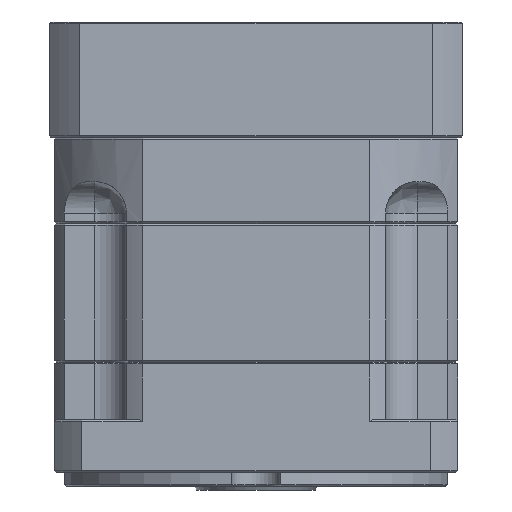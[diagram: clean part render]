
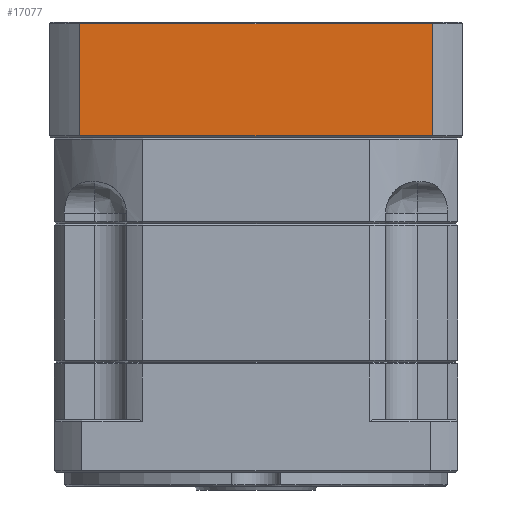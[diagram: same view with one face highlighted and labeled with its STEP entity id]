
A CAD part, front view. The second image highlights one B-rep face of the part: STEP entity #17077.
In plain terms, the highlighted planar face has unit normal (0, -1, 0).
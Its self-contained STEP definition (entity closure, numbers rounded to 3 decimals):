
#5078 = FACE_OUTER_BOUND ( 'NONE', #84333, .T. ) ;
#12532 = EDGE_CURVE ( 'NONE', #76720, #50619, #70530, .T. ) ;
#16897 = ORIENTED_EDGE ( 'NONE', *, *, #111035, .T. ) ;
#17077 = ADVANCED_FACE ( 'NONE', ( #5078 ), #99193, .F. ) ;
#19075 = CARTESIAN_POINT ( 'NONE',  ( 120.925, 19.563, -28.146 ) ) ;
#28096 = DIRECTION ( 'NONE',  ( -1., 0., 0. ) ) ;
#30961 = LINE ( 'NONE', #47358, #75723 ) ;
#31245 = CARTESIAN_POINT ( 'NONE',  ( 120.925, 19.563, -60.646 ) ) ;
#40245 = DIRECTION ( 'NONE',  ( 1., 0., 0. ) ) ;
#40355 = VECTOR ( 'NONE', #40245, 1000. ) ;
#41405 = VERTEX_POINT ( 'NONE', #72030 ) ;
#43146 = EDGE_CURVE ( 'NONE', #50619, #41405, #30961, .T. ) ;
#47358 = CARTESIAN_POINT ( 'NONE',  ( 120.925, 19.563, -28.646 ) ) ;
#50619 = VERTEX_POINT ( 'NONE', #58815 ) ;
#55283 = CARTESIAN_POINT ( 'NONE',  ( 120.925, 19.563, -28.146 ) ) ;
#56021 = CARTESIAN_POINT ( 'NONE',  ( 20.421, 19.563, -60.646 ) ) ;
#58815 = CARTESIAN_POINT ( 'NONE',  ( 20.421, 19.563, -28.646 ) ) ;
#61032 = LINE ( 'NONE', #55283, #105734 ) ;
#62635 = ORIENTED_EDGE ( 'NONE', *, *, #12532, .F. ) ;
#62722 = EDGE_CURVE ( 'NONE', #41405, #84319, #61032, .T. ) ;
#64167 = LINE ( 'NONE', #31245, #40355 ) ;
#68521 = ORIENTED_EDGE ( 'NONE', *, *, #62722, .F. ) ;
#69261 = CARTESIAN_POINT ( 'NONE',  ( 120.925, 19.563, -60.646 ) ) ;
#70530 = LINE ( 'NONE', #94260, #115204 ) ;
#72030 = CARTESIAN_POINT ( 'NONE',  ( 120.925, 19.563, -28.646 ) ) ;
#75723 = VECTOR ( 'NONE', #100844, 1000. ) ;
#76720 = VERTEX_POINT ( 'NONE', #56021 ) ;
#81625 = DIRECTION ( 'NONE',  ( 0., 1., 0. ) ) ;
#82732 = AXIS2_PLACEMENT_3D ( 'NONE', #19075, #81625, #28096 ) ;
#84319 = VERTEX_POINT ( 'NONE', #69261 ) ;
#84333 = EDGE_LOOP ( 'NONE', ( #104017, #62635, #16897, #68521 ) ) ;
#85721 = DIRECTION ( 'NONE',  ( 0., 0., 1. ) ) ;
#94260 = CARTESIAN_POINT ( 'NONE',  ( 20.421, 19.563, -28.146 ) ) ;
#99193 = PLANE ( 'NONE',  #82732 ) ;
#99418 = DIRECTION ( 'NONE',  ( 0., 0., -1. ) ) ;
#100844 = DIRECTION ( 'NONE',  ( 1., 0., 0. ) ) ;
#104017 = ORIENTED_EDGE ( 'NONE', *, *, #43146, .F. ) ;
#105734 = VECTOR ( 'NONE', #99418, 1000. ) ;
#111035 = EDGE_CURVE ( 'NONE', #76720, #84319, #64167, .T. ) ;
#115204 = VECTOR ( 'NONE', #85721, 1000. ) ;
